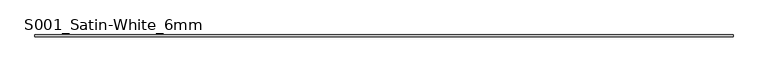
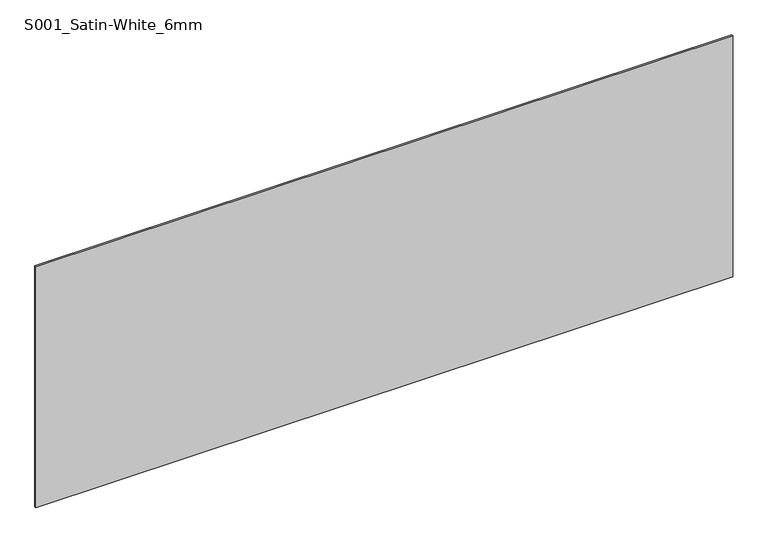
"""IFC4 building model written with IfcOpenShell, lengths in millimetres: plate geometry, Curtain-Panels_Outdoor-Material_HI-MACS_Solids : S001_Satin-White_6mm."""

from ifc_helpers import new_model, si_unit, origin, origin_with_axes, place, context, project, spatial, polyline, outline, extrude, source, transform, mapped, element, save


def s001_satin_white_6mm_c5be8b13(model_context):
    return source(origin(), model_context, "Body", "SweptSolid", [
        extrude(outline(polyline([(1245.0, 3.0), (1245.0, -3.0), (-1245.0, -3.0), (-1245.0, 3.0), (1245.0, 3.0)])), origin_with_axes(), (0.0, 0.0, 1.0), 910.0),
    ])


if __name__ == "__main__":
    model = new_model("IFC4")
    model_context = context("Model", 3, world=origin())
    ifc_project = project(units=[si_unit("LENGTHUNIT", "METRE", prefix="MILLI")], contexts=[model_context])
    site = spatial("IfcSite", under=ifc_project)
    building = spatial("IfcBuilding", under=site)
    placement = place(None, origin())
    s001_satin_white_6mm_shape = s001_satin_white_6mm_c5be8b13(model_context)
    element("IfcPlate", 1, ObjectType="Curtain-Panels_Outdoor-Material_HI-MACS_Solids : S001_Satin-White_6mm", at=placement, inside=building, context=model_context, shape_type="MappedRepresentation", body=[
        mapped(s001_satin_white_6mm_shape, transform((0.0, 0.0, 0.0), x_axis=(1.0, 0.0, 0.0), y_axis=(0.0, 1.0, 0.0), z_axis=(0.0, 0.0, 1.0))),
    ])
    save(model, "model.ifc")
